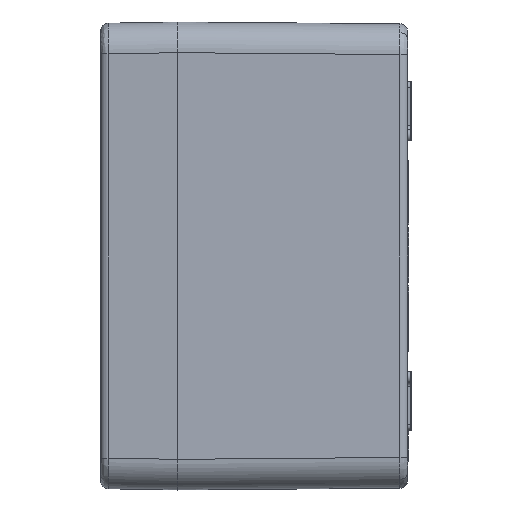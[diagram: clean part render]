
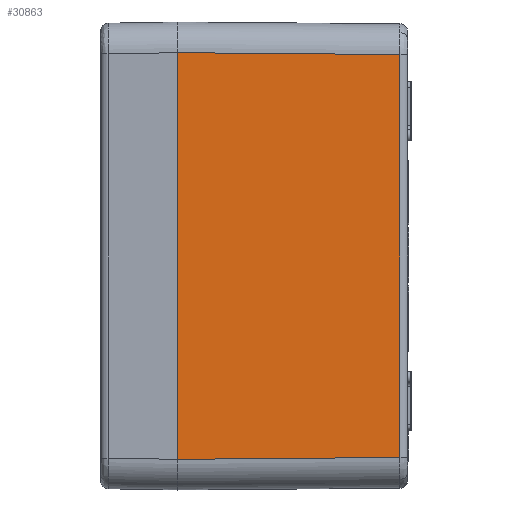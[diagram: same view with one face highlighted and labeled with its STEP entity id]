
A CAD part, left-side view. The second image highlights one B-rep face of the part: STEP entity #30863.
In plain terms, the highlighted planar face has unit normal (-1, -0.008, 0) as drawn and (1, -0.008, 0) by its records, which use the part's own axes.
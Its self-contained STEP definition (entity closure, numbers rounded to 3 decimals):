
#8124=DIRECTION('',(0.,0.,1.));
#8125=VECTOR('',#8124,106.001);
#8126=CARTESIAN_POINT('',(110.,0.,-53.));
#8127=LINE('',#8126,#8125);
#8137=CARTESIAN_POINT('',(110.,0.,53.));
#9247=DIRECTION('',(0.,0.,1.));
#9248=VECTOR('',#9247,105.034);
#9249=CARTESIAN_POINT('',(109.517,-58.017,
-52.517));
#9250=LINE('',#9249,#9248);
#9254=DIRECTION('',(0.008,1.,0.008));
#9255=VECTOR('',#9254,58.021);
#9256=CARTESIAN_POINT('',(109.516,-58.017,52.517));
#9257=LINE('',#9256,#9255);
#9261=DIRECTION('',(0.008,1.,-0.008));
#9262=VECTOR('',#9261,58.021);
#9263=CARTESIAN_POINT('',(109.517,-58.017,
-52.517));
#9264=LINE('',#9263,#9262);
#9279=CARTESIAN_POINT('',(109.516,-58.017,52.517));
#24923=VERTEX_POINT('',#8137);
#24926=CARTESIAN_POINT('',(110.,0.,-53.));
#24927=VERTEX_POINT('',#24926);
#24956=VERTEX_POINT('',#9279);
#24959=CARTESIAN_POINT('',(109.517,-58.017,
-52.517));
#24960=VERTEX_POINT('',#24959);
#30850=CARTESIAN_POINT('',(109.75,-30.,0.));
#30851=DIRECTION('',(1.,-0.008,0.));
#30852=DIRECTION('',(0.008,1.,0.));
#30853=AXIS2_PLACEMENT_3D('',#30850,#30851,#30852);
#30854=PLANE('',#30853);
#30855=ORIENTED_EDGE('',*,*,#30837,.T.);
#30857=ORIENTED_EDGE('',*,*,#30856,.T.);
#30858=ORIENTED_EDGE('',*,*,#29489,.F.);
#30860=ORIENTED_EDGE('',*,*,#30859,.F.);
#30861=EDGE_LOOP('',(#30855,#30857,#30858,#30860));
#30862=FACE_OUTER_BOUND('',#30861,.F.);
#29489=EDGE_CURVE('',#24927,#24923,#8127,.T.);
#30837=EDGE_CURVE('',#24960,#24956,#9250,.T.);
#30856=EDGE_CURVE('',#24956,#24923,#9257,.T.);
#30859=EDGE_CURVE('',#24960,#24927,#9264,.T.);
#30863=ADVANCED_FACE('',(#30862),#30854,.T.);
